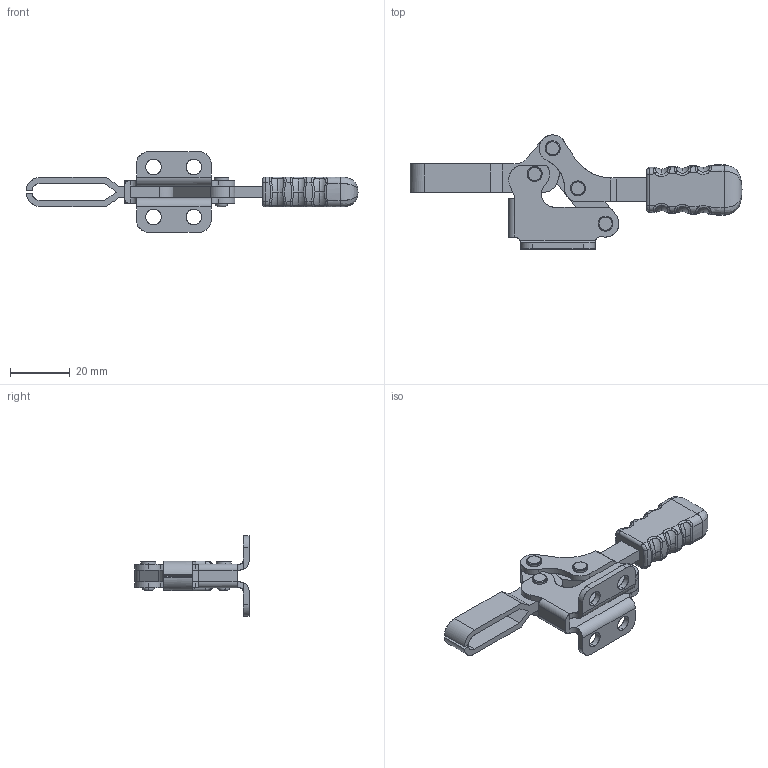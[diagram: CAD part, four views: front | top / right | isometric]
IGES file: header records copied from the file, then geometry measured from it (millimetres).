
Start section: Comment
Global section: file name: 20752b.igs; native system:  By Spatial Corp.; preprocessor: XPlus PS/IGES 3.0; author: Author; organization: Title; date: 20050217.080941; units: inch
Bounding box: 111.28 x 38.23 x 27 mm (x, y, z)
Surface area: 12347.5 mm2 (no closed solid volume)
Topology: 0 solids, 0 shells, 320 faces, 1594 edges, 1586 vertices
Faces by surface type: revolution 161, extrusion 89, bspline 70
